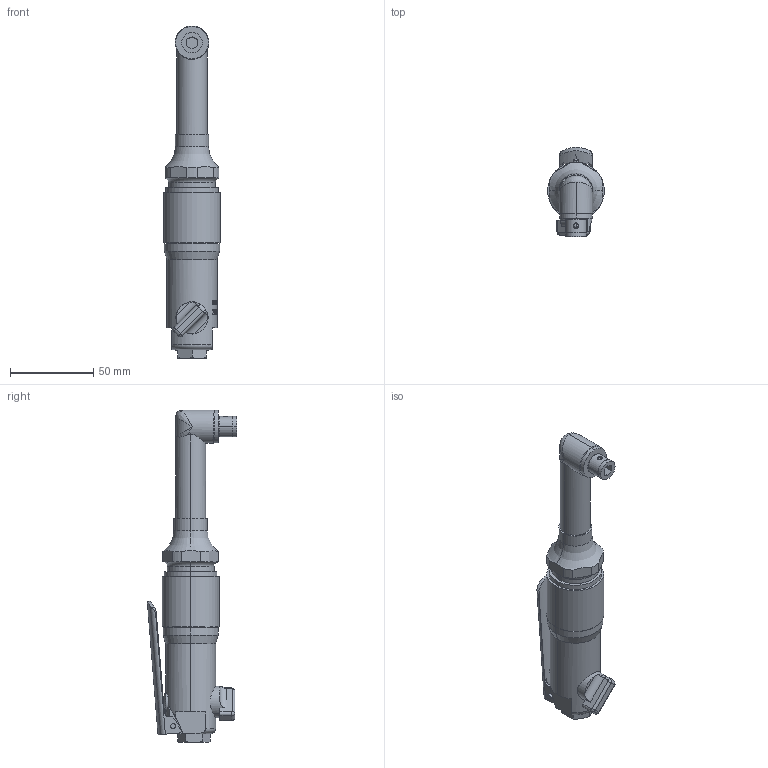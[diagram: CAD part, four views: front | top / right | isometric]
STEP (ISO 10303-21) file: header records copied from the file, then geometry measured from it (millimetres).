
FILE_DESCRIPTION (( 'STEP AP203' ), '1' );
FILE_NAME ('US-3.5ACB.STEP', '2006-05-24T07:50:21', ( '' ), ( '' ), 'SwSTEP 2.0', 'SolidWorks 2003240', '' );
FILE_SCHEMA (( 'CONFIG_CONTROL_DESIGN' ));
Length unit declared in the file: millimetre
Products named in the file (8): 4124304_US-3.5ACB_蹬怮椔; 9810020_US-3.5ACB_蹬怮椔; 4102121_US-3.5ACB_蹬怮椔; US-3.5ACB; 6020341_US-3.5ACB_蹬怮椔; 4100251_US-3.5ACB_蹬怮椔; 9702130_US-3.5ACB_蹬怮椔; 5001071_US-3.5ACB_蹬怮椔
Assembly tree (7 placements, depth 2):
  US-3.5ACB
    9810020_US-3.5ACB_蹬怮椔
    4124304_US-3.5ACB_蹬怮椔
    4102121_US-3.5ACB_蹬怮椔
    9702130_US-3.5ACB_蹬怮椔
    4100251_US-3.5ACB_蹬怮椔
    5001071_US-3.5ACB_蹬怮椔
    6020341_US-3.5ACB_蹬怮椔
Bounding box: 34 x 53.58 x 198.9 mm (x, y, z)
Volume: 118430.6 mm3; surface area: 28369.9 mm2
Topology: 7 solids, 7 shells, 442 faces, 1173 edges, 770 vertices
Faces by surface type: cylinder 156, plane 150, bspline 105, cone 14, torus 13, sphere 4
Entity records: 25048 total; most frequent: CARTESIAN_POINT 14245, ORIENTED_EDGE 2328, DIRECTION 1691, EDGE_CURVE 1164, VERTEX_POINT 767, AXIS2_PLACEMENT_3D 622, EDGE_LOOP 479, VECTOR 447
